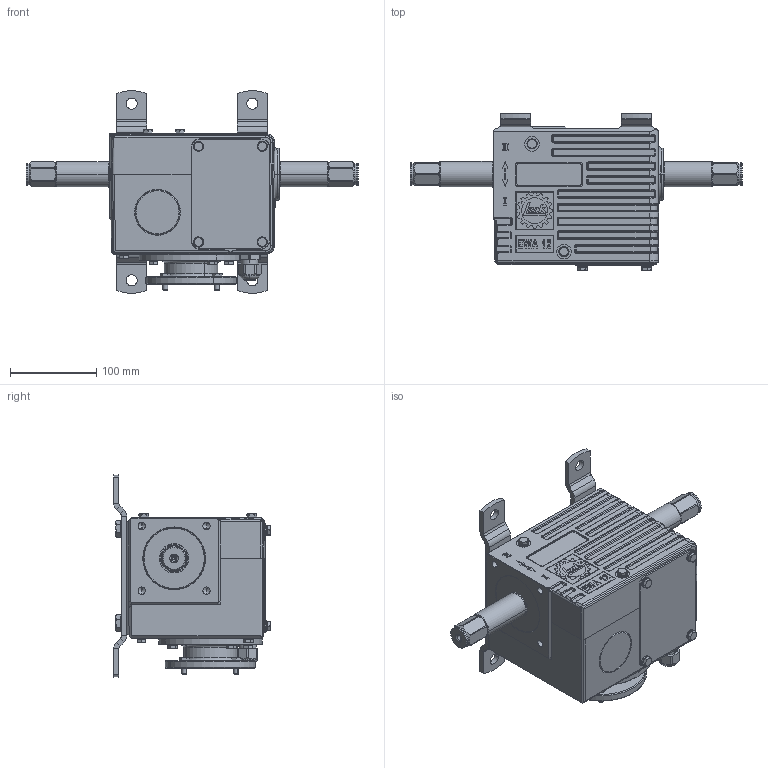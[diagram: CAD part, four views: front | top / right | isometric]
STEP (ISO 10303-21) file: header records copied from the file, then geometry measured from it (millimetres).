
FILE_DESCRIPTION (( 'STEP AP214' ), '1' );
FILE_NAME ('010206176_EWA_12_3D__DE_12212.2505.6620.STEP', '2022-09-28T13:10:53', ( '' ), ( '' ), 'SwSTEP 2.0', 'SolidWorks 2022', '' );
FILE_SCHEMA (( 'AUTOMOTIVE_DESIGN' ));
Length unit declared in the file: millimetre
Products named in the file (24): Schraube_10014320; 010200547_EWA_12_3D__DE_Ohne Inhalt; Deckel_10000048; Elektroteil_10001640; Dichtelement_10001203; Schraube_10002078; 010194291_EWA_12_3D-Modell_DE_10194291; 010191515_Normteil_Kaufteil_3D-Modell_DE_10191515; Schraube_10028710; Elektroteil_10028709; Dichtelement_10032469; Montageplatte_10000170; 010198258_EWA_3D-Modell_DE_10198258; 010201812__3D__DE_84204.0037.PM01; Wälzlager_10001868; Elektroantrieb_EWA_10053108_ohne Inhalt; Dichtelement_10005476; 010192906_EWA_12_3D-Modell_DE_10192906_END 20-90000.0002.6290 m.SB; Schraube_10018291; 010200543_EWA_12_3D__DE; Scheibe_10002061; 010206176_EWA_12_3D__DE_12212.2505.6620; Elektroteil_10001639; Kennzeichnung_10001854
Assembly tree (47 placements, depth 3):
  010206176_EWA_12_3D__DE_12212.2505.6620
    Elektroantrieb_EWA_10053108_ohne Inhalt
      010192906_EWA_12_3D-Modell_DE_10192906_END 20-90000.0002.6290 m.SB
      Montageplatte_10000170  x2
      Schraube_10028710  x4
      Dichtelement_10005476
      Dichtelement_10032469
      Elektroteil_10001639
      Elektroteil_10001640
      Dichtelement_10001203
      Elektroteil_10028709
      Deckel_10000048
      Scheibe_10002061  x8
      010191515_Normteil_Kaufteil_3D-Modell_DE_10191515  x4
      Wälzlager_10001868
      Schraube_10018291  x4
      010194291_EWA_12_3D-Modell_DE_10194291
    Schraube_10014320
    Schraube_10002078  x4
    Kennzeichnung_10001854
    010201812__3D__DE_84204.0037.PM01
    010200547_EWA_12_3D__DE_Ohne Inhalt
      010200543_EWA_12_3D__DE
      010198258_EWA_3D-Modell_DE_10198258
      Schraube_10002078  x4
Bounding box: 385 x 181.5 x 234.74 mm (x, y, z)
Volume: 1713312.6 mm3; surface area: 532490 mm2
Topology: 45 solids, 49 shells, 2981 faces, 7214 edges, 4369 vertices
Faces by surface type: plane 1099, cylinder 921, bspline 372, torus 349, cone 162, sphere 78
Entity records: 643354 total; most frequent: CARTESIAN_POINT 412451, ORIENTED_EDGE 58669, EDGE_CURVE 29337, DIRECTION 27210, B_SPLINE_CURVE_WITH_KNOTS 22198, VERTEX_POINT 17447, EDGE_LOOP 12794, FACE_OUTER_BOUND 12231
